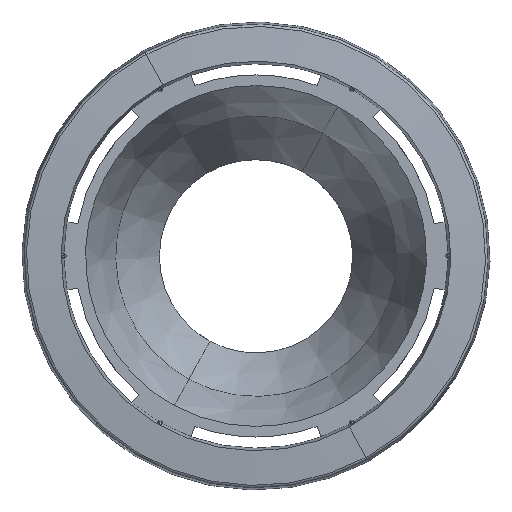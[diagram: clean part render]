
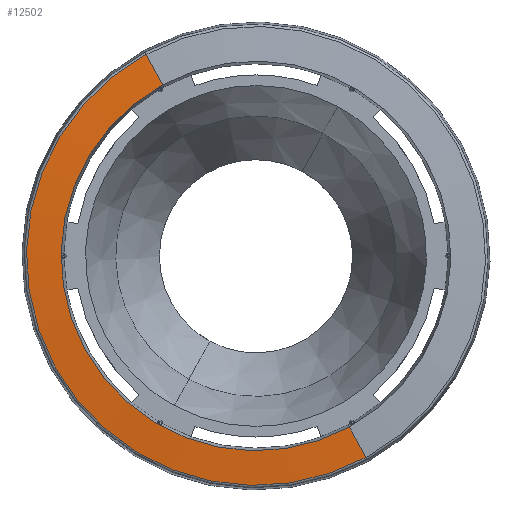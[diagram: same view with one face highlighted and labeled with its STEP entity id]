
A CAD part, top view. The second image highlights one B-rep face of the part: STEP entity #12502.
In plain terms, the highlighted face is a revolution surface.
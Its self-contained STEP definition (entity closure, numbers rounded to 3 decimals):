
#8347=CARTESIAN_POINT('Vertex',(9.958,-18.227,24.125)) ;
#8354=CARTESIAN_POINT('Vertex',(-9.958,18.227,24.125)) ;
#8599=CARTESIAN_POINT('Axis2P3D Location',(0.,0.,24.125)) ;
#12209=CARTESIAN_POINT('Control Point',(-11.73,21.472,23.781)) ;
#12210=CARTESIAN_POINT('Control Point',(-11.142,20.396,23.954)) ;
#12211=CARTESIAN_POINT('Control Point',(-10.551,19.313,24.069)) ;
#12212=CARTESIAN_POINT('Control Point',(-9.958,18.227,24.125)) ;
#12213=CARTESIAN_POINT('Vertex',(-11.73,21.472,23.781)) ;
#12217=CARTESIAN_POINT('Control Point',(11.73,-21.472,23.781)) ;
#12218=CARTESIAN_POINT('Control Point',(11.142,-20.396,23.954)) ;
#12219=CARTESIAN_POINT('Control Point',(10.551,-19.313,24.069)) ;
#12220=CARTESIAN_POINT('Control Point',(9.958,-18.227,24.125)) ;
#12221=CARTESIAN_POINT('Vertex',(11.73,-21.472,23.781)) ;
#12483=CARTESIAN_POINT('Control Point',(11.73,-21.472,23.781)) ;
#12484=CARTESIAN_POINT('Control Point',(11.142,-20.396,23.954)) ;
#12485=CARTESIAN_POINT('Control Point',(10.551,-19.313,24.069)) ;
#12486=CARTESIAN_POINT('Control Point',(9.958,-18.227,24.125)) ;
#12487=CARTESIAN_POINT('Axis1P Location',(0.,0.,-15.092)) ;
#12491=CARTESIAN_POINT('Axis2P3D Location',(0.,0.,23.781)) ;
#8600=DIRECTION('Axis2P3D Direction',(0.,0.,1.)) ;
#12488=DIRECTION('Axis1P Direction',(0.,-0.,-1.)) ;
#12492=DIRECTION('Axis2P3D Direction',(0.,-0.,-1.)) ;
#8601=AXIS2_PLACEMENT_3D('Circle Axis2P3D',#8599,#8600,$) ;
#12493=AXIS2_PLACEMENT_3D('Circle Axis2P3D',#12491,#12492,$) ;
#12497=ORIENTED_EDGE('',*,*,#12223,.F.) ;
#12498=ORIENTED_EDGE('',*,*,#8603,.F.) ;
#12499=ORIENTED_EDGE('',*,*,#12215,.T.) ;
#12500=ORIENTED_EDGE('',*,*,#12495,.T.) ;
#12502=ADVANCED_FACE('Mirella-G2-W-reflector',(#12501),#12490,.F.) ;
#12489=AXIS1_PLACEMENT('Revolution Surface Axis1P',#12487,#12488) ;
#12208=B_SPLINE_CURVE_WITH_KNOTS('',3,(#12209,#12210,#12211,#12212),.UNSPECIFIED.,.F.,.U.,(4,4),(56.168,59.883),.UNSPECIFIED.) ;
#12216=B_SPLINE_CURVE_WITH_KNOTS('',3,(#12217,#12218,#12219,#12220),.UNSPECIFIED.,.F.,.U.,(4,4),(56.168,59.883),.UNSPECIFIED.) ;
#12482=B_SPLINE_CURVE_WITH_KNOTS('',3,(#12483,#12484,#12485,#12486),.UNSPECIFIED.,.F.,.U.,(4,4),(56.168,59.883),.UNSPECIFIED.) ;
#8602=CIRCLE('generated circle',#8601,20.77) ;
#12494=CIRCLE('generated circle',#12493,24.467) ;
#8603=EDGE_CURVE('',#8355,#8348,#8602,.T.) ;
#12215=EDGE_CURVE('',#8355,#12214,#12208,.F.) ;
#12223=EDGE_CURVE('',#8348,#12222,#12216,.F.) ;
#12495=EDGE_CURVE('',#12214,#12222,#12494,.F.) ;
#12496=EDGE_LOOP('',(#12497,#12498,#12499,#12500)) ;
#12501=FACE_OUTER_BOUND('',#12496,.T.) ;
#12490=SURFACE_OF_REVOLUTION('Surface of Revolution',#12482,#12489) ;
#8348=VERTEX_POINT('',#8347) ;
#8355=VERTEX_POINT('',#8354) ;
#12214=VERTEX_POINT('',#12213) ;
#12222=VERTEX_POINT('',#12221) ;
